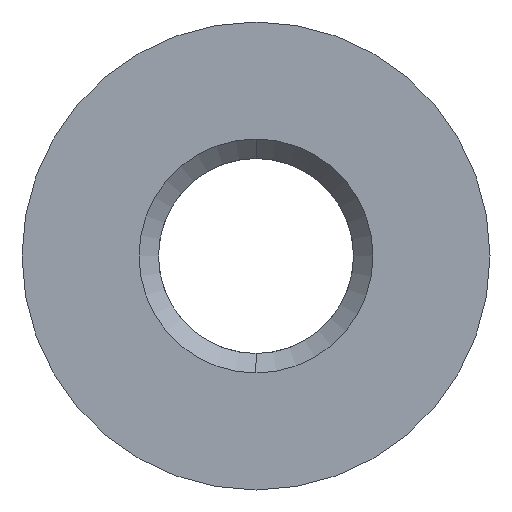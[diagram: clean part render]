
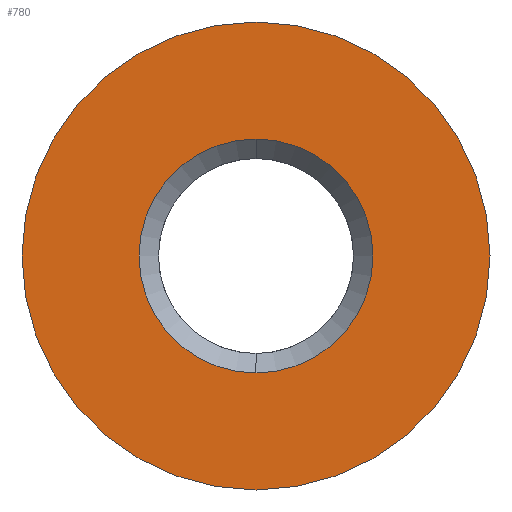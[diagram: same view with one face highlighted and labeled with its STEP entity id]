
A CAD part, left-side view. The second image highlights one B-rep face of the part: STEP entity #780.
In plain terms, the highlighted planar face has unit normal (-1, 0, 0).
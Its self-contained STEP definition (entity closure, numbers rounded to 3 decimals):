
#13 = CIRCLE ( 'NONE', #207, 3. ) ;
#14 = CIRCLE ( 'NONE', #631, 3. ) ;
#15 = AXIS2_PLACEMENT_3D ( 'NONE', #487, #760, #162 ) ;
#26 = EDGE_LOOP ( 'NONE', ( #442, #880 ) ) ;
#49 = DIRECTION ( 'NONE',  ( 0., 0., 1. ) ) ;
#54 = VERTEX_POINT ( 'NONE', #726 ) ;
#78 = DIRECTION ( 'NONE',  ( 0., 0., -1. ) ) ;
#128 = EDGE_CURVE ( 'NONE', #235, #54, #13, .T. ) ;
#147 = AXIS2_PLACEMENT_3D ( 'NONE', #479, #746, #78 ) ;
#156 = EDGE_CURVE ( 'NONE', #354, #514, #161, .T. ) ;
#161 = CIRCLE ( 'NONE', #197, 6. ) ;
#162 = DIRECTION ( 'NONE',  ( 0., 0., 1. ) ) ;
#197 = AXIS2_PLACEMENT_3D ( 'NONE', #342, #735, #874 ) ;
#207 = AXIS2_PLACEMENT_3D ( 'NONE', #269, #459, #49 ) ;
#213 = PLANE ( 'NONE',  #15 ) ;
#235 = VERTEX_POINT ( 'NONE', #697 ) ;
#269 = CARTESIAN_POINT ( 'NONE',  ( -15.32, 0., 0. ) ) ;
#306 = DIRECTION ( 'NONE',  ( 1., 0., 0. ) ) ;
#342 = CARTESIAN_POINT ( 'NONE',  ( -15.32, 0., 0. ) ) ;
#354 = VERTEX_POINT ( 'NONE', #686 ) ;
#355 = FACE_OUTER_BOUND ( 'NONE', #583, .T. ) ;
#403 = EDGE_CURVE ( 'NONE', #54, #235, #14, .T. ) ;
#442 = ORIENTED_EDGE ( 'NONE', *, *, #403, .T. ) ;
#459 = DIRECTION ( 'NONE',  ( 1., 0., 0. ) ) ;
#479 = CARTESIAN_POINT ( 'NONE',  ( -15.32, 0., 0. ) ) ;
#487 = CARTESIAN_POINT ( 'NONE',  ( -15.32, 2.5, 0. ) ) ;
#514 = VERTEX_POINT ( 'NONE', #803 ) ;
#526 = CIRCLE ( 'NONE', #147, 6. ) ;
#572 = DIRECTION ( 'NONE',  ( 0., 0., 1. ) ) ;
#583 = EDGE_LOOP ( 'NONE', ( #594, #685 ) ) ;
#594 = ORIENTED_EDGE ( 'NONE', *, *, #156, .F. ) ;
#631 = AXIS2_PLACEMENT_3D ( 'NONE', #774, #306, #572 ) ;
#663 = EDGE_CURVE ( 'NONE', #514, #354, #526, .T. ) ;
#685 = ORIENTED_EDGE ( 'NONE', *, *, #663, .F. ) ;
#686 = CARTESIAN_POINT ( 'NONE',  ( -15.32, 0., -6. ) ) ;
#697 = CARTESIAN_POINT ( 'NONE',  ( -15.32, 0., -3. ) ) ;
#726 = CARTESIAN_POINT ( 'NONE',  ( -15.32, 0., 3. ) ) ;
#735 = DIRECTION ( 'NONE',  ( 1., 0., 0. ) ) ;
#746 = DIRECTION ( 'NONE',  ( 1., 0., 0. ) ) ;
#756 = FACE_BOUND ( 'NONE', #26, .T. ) ;
#760 = DIRECTION ( 'NONE',  ( -1., 0., 0. ) ) ;
#774 = CARTESIAN_POINT ( 'NONE',  ( -15.32, 0., 0. ) ) ;
#780 = ADVANCED_FACE ( 'NONE', ( #756, #355 ), #213, .T. ) ;
#803 = CARTESIAN_POINT ( 'NONE',  ( -15.32, 0., 6. ) ) ;
#874 = DIRECTION ( 'NONE',  ( 0., 0., -1. ) ) ;
#880 = ORIENTED_EDGE ( 'NONE', *, *, #128, .T. ) ;
